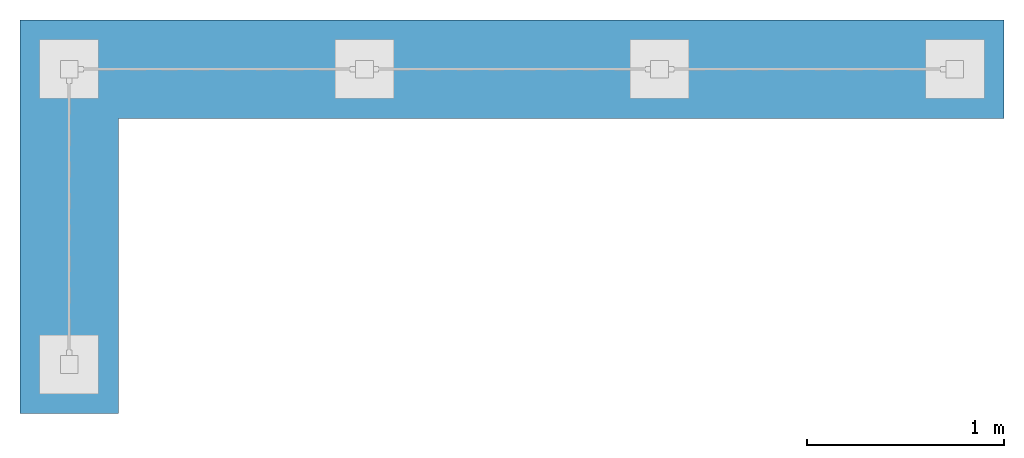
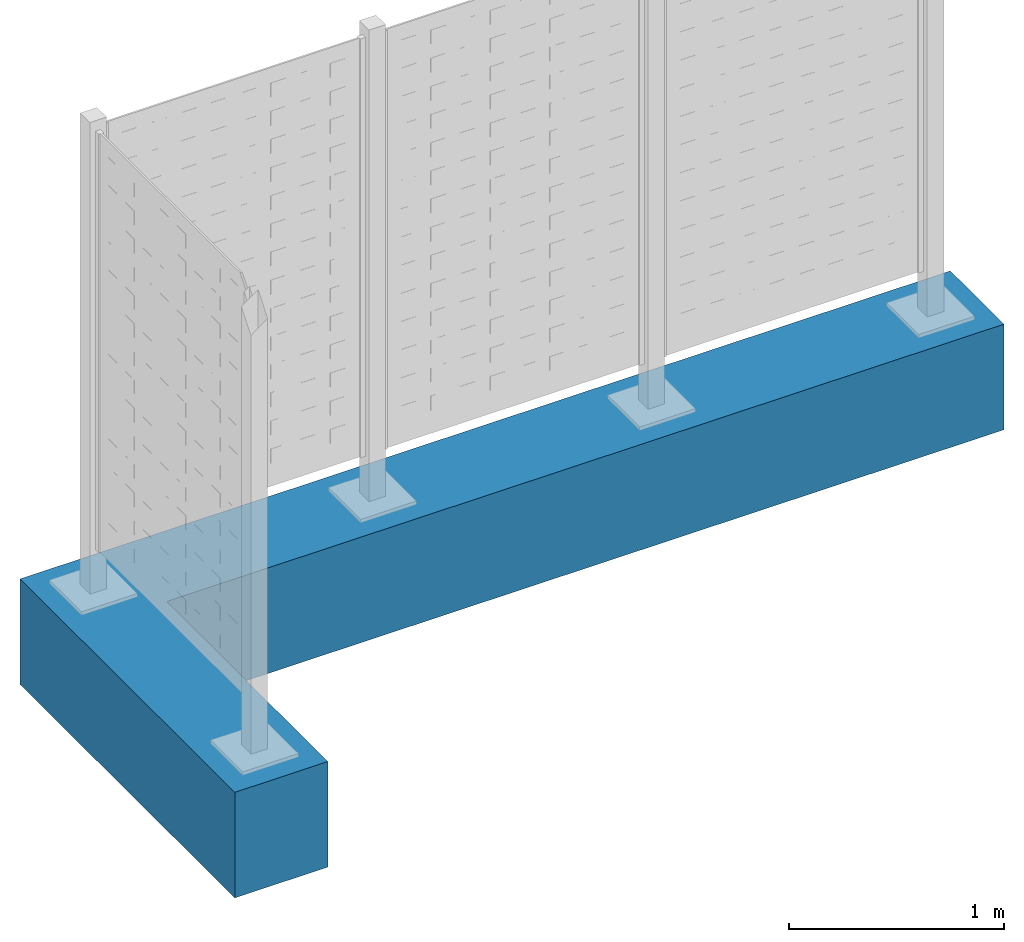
# One storey, incomplete: 1 slab.
"""IFC4 building model written with IfcOpenShell, lengths in metres."""

from ifc_helpers import new_model, entity, si_unit, converted_unit, direction, frame, origin, place, context, subcontext, project, spatial, polyline, outline, extrude, material, type_object, element, save


model = new_model("IFC4")

# Units and contexts
model_context = context("Model", 3, precision=1e-05, world=origin(), true_north=direction((6.123031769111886e-17, 1.0)))
body_context = subcontext(model_context, "Body", "Model", "MODEL_VIEW")
ifc_project = project(units=[si_unit("LENGTHUNIT", "METRE"), converted_unit("PLANEANGLEUNIT", "DEGREE", entity("IfcPlaneAngleMeasure", 0.017453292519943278), si_unit("PLANEANGLEUNIT", "RADIAN"), dimensions=[0, 0, 0, 0, 0, 0, 0]), si_unit("AREAUNIT", "SQUARE_METRE")], contexts=[model_context])

# Site, building, storey
site_placement = place(None, origin())
site = spatial("IfcSite", under=ifc_project, at=site_placement, Name="Default", CompositionType="ELEMENT")
building_placement = place(site_placement, origin())
building = spatial("IfcBuilding", under=site, at=building_placement, CompositionType="ELEMENT")
storey_placement = place(building_placement, origin())
storey = spatial("IfcBuildingStorey", under=building, at=storey_placement, Name="DB_Bezugshoehe_max_Bahnsteigkante", CompositionType="ELEMENT", Elevation=0.0)

# Slab
ifc_material = material(Name="DB_Ortbeton", Category="DB_Beton")
slab_type = type_object("IfcSlabType", Name="DB_Windschutz_3-feldrig_L_Fundament:DB_Windschutz_3-feldrig_L_Fundament", PredefinedType="BASESLAB", material=ifc_material)
slab_placement = place(storey_placement, origin())
element("IfcSlab", 1, at=slab_placement, inside=storey, type_object=slab_type, Name="DB_Windschutz_3-feldrig_L_Fundament:DB_Windschutz_3-feldrig_L_Fundament", ObjectType="DB_Windschutz_3-feldrig_L_Fundament:DB_Windschutz_3-feldrig_L_Fundament", PredefinedType="BASESLAB", context=body_context, shape_type="SweptSolid", body=[
    extrude(outline(polyline([(0.019999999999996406, 0.18749999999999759), (3.1600000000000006, 0.18749999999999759), (3.1599999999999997, 0.6874999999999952), (0.0200000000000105, 0.6874999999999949), (-1.8400000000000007, 0.6874999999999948), (-1.8400000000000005, -1.3125000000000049), (-1.3400000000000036, -1.312499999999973), (-1.340000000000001, 0.18749999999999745), (0.019999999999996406, 0.18749999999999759)])), frame((1.5900000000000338, 1.0624999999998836, 0.0)), (0.0, 0.0, 1.0), 0.5999999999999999),
])

save(model, "model.ifc")
